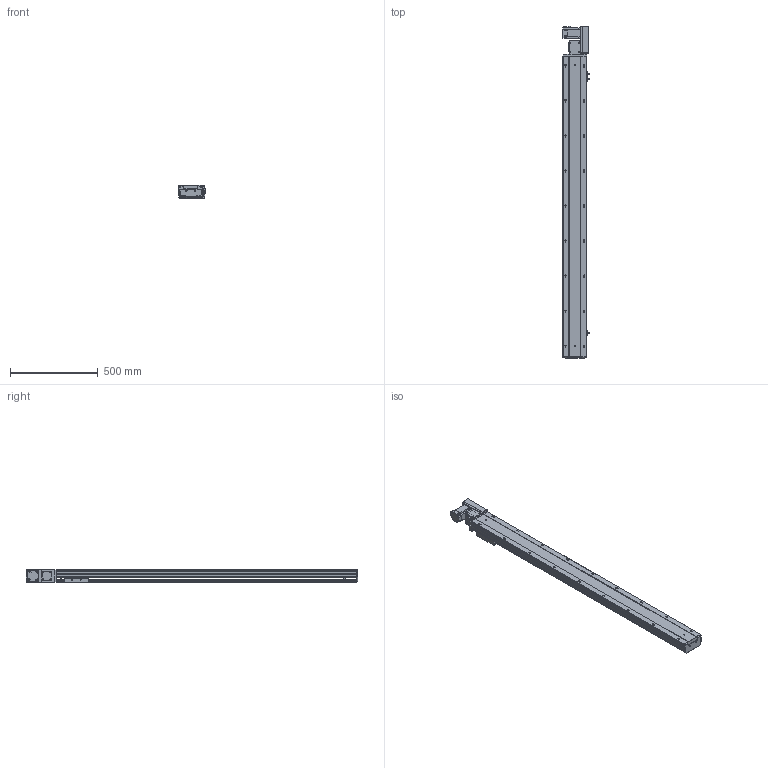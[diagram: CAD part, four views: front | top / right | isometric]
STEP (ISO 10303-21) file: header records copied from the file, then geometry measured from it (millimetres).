
FILE_DESCRIPTION (( 'STEP AP203' ), '1' );
FILE_NAME ('145.STEP', '2022-07-20T11:58:33', ( '' ), ( '' ), 'SwSTEP 2.0', 'SolidWorks 2016', '' );
FILE_SCHEMA (( 'CONFIG_CONTROL_DESIGN' ));
Length unit declared in the file: millimetre
Products named in the file (10): BTB14-L-菁釱_XD; BTB14-L-M40; BTB14-L-01; BTB14-L-23; BTB14-L-24; BTB14-L-04; BTB14-L-02; BTB14-L-HZ; BTB14-L-06; 145
Assembly tree (12 placements, depth 2):
  145
    BTB14-L-菁釱_XD
    BTB14-L-01
    BTB14-L-02
    BTB14-L-04  x3
    BTB14-L-06
    BTB14-L-23  x2
    BTB14-L-24
    BTB14-L-HZ
    BTB14-L-M40
Bounding box: 148.7 x 1893.5 x 78 mm (x, y, z)
Volume: 8091404 mm3; surface area: 1691241.9 mm2
Topology: 22 solids, 22 shells, 1642 faces, 4341 edges, 2764 vertices
Faces by surface type: plane 937, cylinder 480, cone 136, bspline 77, torus 12
Entity records: 43622 total; most frequent: CARTESIAN_POINT 10715, ORIENTED_EDGE 6580, DIRECTION 6556, EDGE_CURVE 3290, LINE 2230, VECTOR 2230, AXIS2_PLACEMENT_3D 2163, VERTEX_POINT 2142
